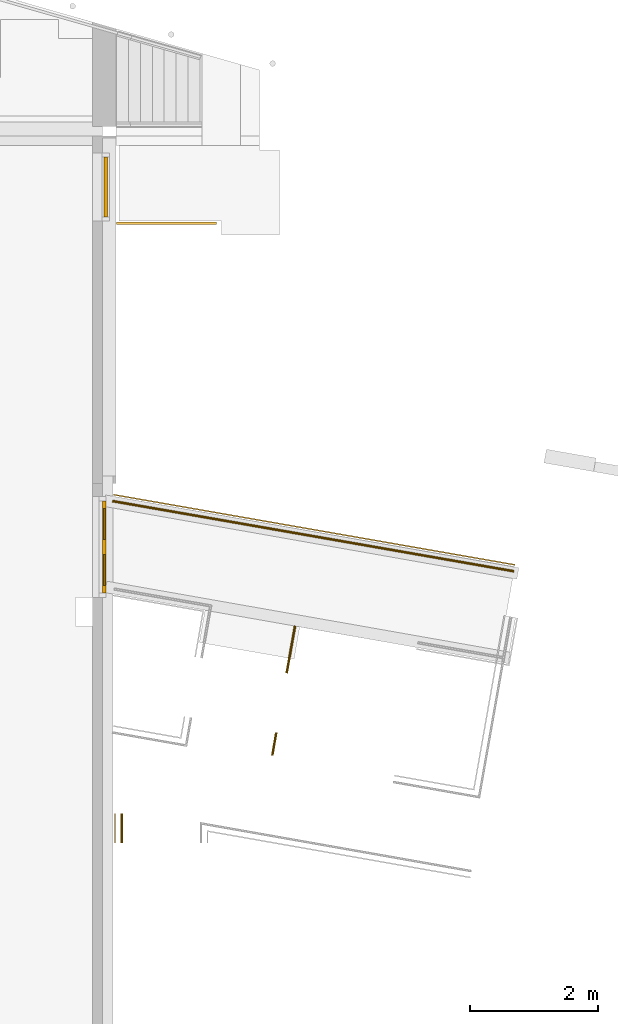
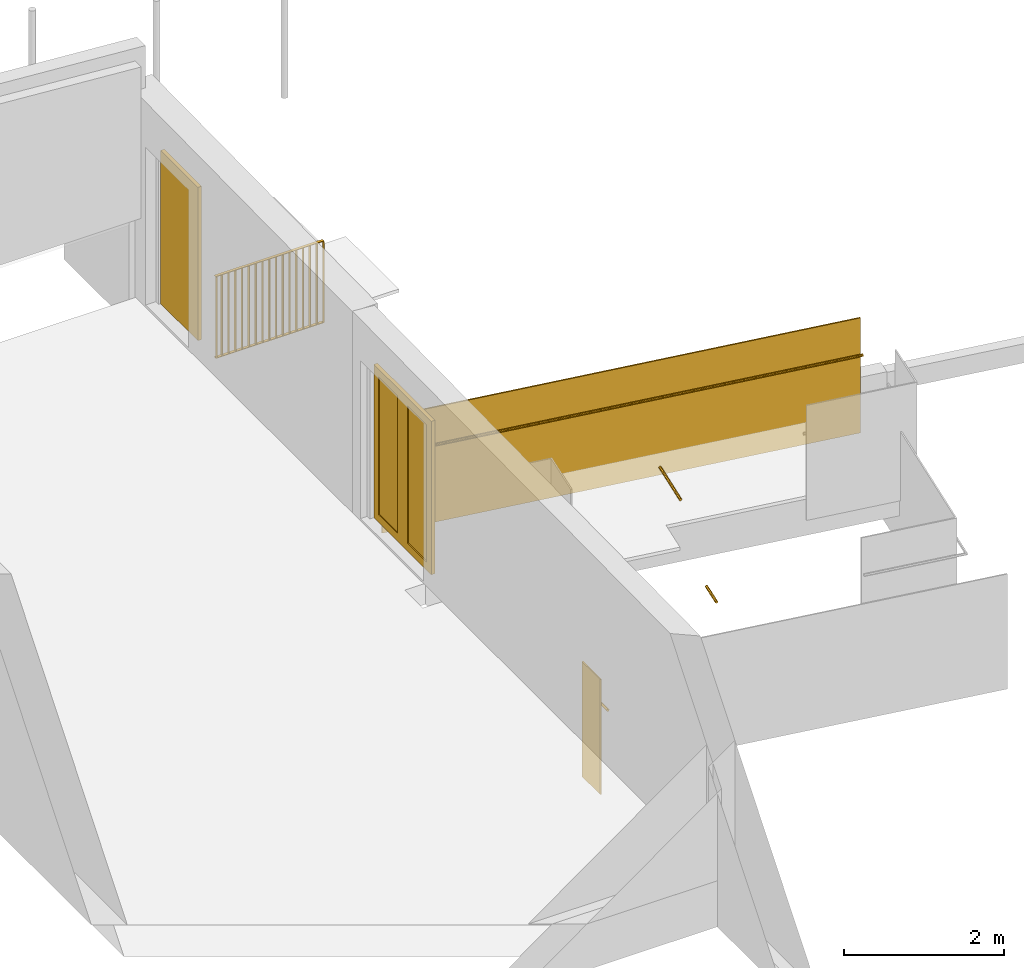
# One storey, part 6 of 10: 5 railings, 2 doors, 2 windows, 2 elements without a shape of their own.
"""IFC2X3 building model written with IfcOpenShell, lengths in millimetres."""

from ifc_helpers import new_model, entity, si_unit, converted_unit, derived_unit, direction, frame, frame_2d, origin, origin_2d_with_axis, place, context, subcontext, project, spatial, polyline, rectangle, circle, outline, extrude, source, transform, mapped, material, material_list, type_object, type_shapes, element, aggregate, save


model = new_model("IFC2X3")

# Units and contexts
model_context = context("Model", 3, precision=0.01, world=origin(), true_north=direction((6.12303176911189e-17, 1.0)))
body_context = subcontext(model_context, "Body", "Model", "MODEL_VIEW")
ifc_project = project(units=[si_unit("LENGTHUNIT", "METRE", prefix="MILLI"), si_unit("AREAUNIT", "SQUARE_METRE"), si_unit("VOLUMEUNIT", "CUBIC_METRE"), converted_unit("PLANEANGLEUNIT", "DEGREE", entity("IfcRatioMeasure", 0.0174532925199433), si_unit("PLANEANGLEUNIT", "RADIAN"), dimensions=[0, 0, 0, 0, 0, 0, 0]), si_unit("MASSUNIT", "GRAM", prefix="KILO"), derived_unit("MASSDENSITYUNIT", [(si_unit("MASSUNIT", "GRAM", prefix="KILO"), 1), (si_unit("LENGTHUNIT", "METRE"), -3)]), derived_unit("MOMENTOFINERTIAUNIT", [(si_unit("LENGTHUNIT", "METRE"), 4)]), si_unit("TIMEUNIT", "SECOND"), si_unit("FREQUENCYUNIT", "HERTZ"), si_unit("THERMODYNAMICTEMPERATUREUNIT", "DEGREE_CELSIUS"), derived_unit("THERMALTRANSMITTANCEUNIT", [(si_unit("MASSUNIT", "GRAM", prefix="KILO"), 1), (si_unit("THERMODYNAMICTEMPERATUREUNIT", "KELVIN"), -1), (si_unit("TIMEUNIT", "SECOND"), -3)]), derived_unit("VOLUMETRICFLOWRATEUNIT", [(si_unit("LENGTHUNIT", "METRE"), 3), (si_unit("TIMEUNIT", "SECOND"), -1)]), si_unit("ELECTRICCURRENTUNIT", "AMPERE"), si_unit("ELECTRICVOLTAGEUNIT", "VOLT"), si_unit("POWERUNIT", "WATT"), si_unit("FORCEUNIT", "NEWTON", prefix="KILO"), si_unit("ILLUMINANCEUNIT", "LUX"), si_unit("LUMINOUSFLUXUNIT", "LUMEN"), si_unit("LUMINOUSINTENSITYUNIT", "CANDELA"), derived_unit("USERDEFINED", [(si_unit("MASSUNIT", "GRAM", prefix="KILO"), -1), (si_unit("LENGTHUNIT", "METRE"), -2), (si_unit("TIMEUNIT", "SECOND"), 3), (si_unit("LUMINOUSFLUXUNIT", "LUMEN"), 1)]), derived_unit("LINEARVELOCITYUNIT", [(si_unit("LENGTHUNIT", "METRE"), 1), (si_unit("TIMEUNIT", "SECOND"), -1)]), si_unit("PRESSUREUNIT", "PASCAL"), derived_unit("USERDEFINED", [(si_unit("LENGTHUNIT", "METRE"), -2), (si_unit("MASSUNIT", "GRAM", prefix="KILO"), 1), (si_unit("TIMEUNIT", "SECOND"), -2)]), derived_unit("LINEARFORCEUNIT", [(si_unit("MASSUNIT", "GRAM", prefix="KILO"), 1), (si_unit("LENGTHUNIT", "METRE"), 1), (si_unit("TIMEUNIT", "SECOND"), -2), (si_unit("LENGTHUNIT", "METRE"), -1)]), derived_unit("PLANARFORCEUNIT", [(si_unit("MASSUNIT", "GRAM", prefix="KILO"), 1), (si_unit("LENGTHUNIT", "METRE"), 1), (si_unit("TIMEUNIT", "SECOND"), -2), (si_unit("LENGTHUNIT", "METRE"), -2)])], contexts=[model_context])

# Site, building, storey
site_placement = place(None, origin())
site = spatial("IfcSite", under=ifc_project, at=site_placement, Name="<Kadaster Gemeente>;<Kadaster nummer>;<Kadaster sectie>", CompositionType="ELEMENT")
building_placement = place(site_placement, origin())
building = spatial("IfcBuilding", under=site, at=building_placement, Name="JRCZ Middelburg", CompositionType="ELEMENT")
storey_placement = place(building_placement, frame((0.0, 0.0, 3700.0)))
storey = spatial("IfcBuildingStorey", under=building, at=storey_placement, Name="02 tweede verdieping", CompositionType="ELEMENT", Elevation=3700.0)

# Curtain wall, door
curtain_wall_type_1 = type_object("IfcCurtainWallType", Name="Curtain Wall:NLRS_32_CW_Ontwerpkozijn 067x114 binnen", PredefinedType="NOTDEFINED")
curtain_wall_1_placement = place(storey_placement, frame((0.0, 0.0, -3700.0)))
curtain_wall_1 = element("IfcCurtainWall", 1, at=curtain_wall_1_placement, inside=storey, type_object=curtain_wall_type_1, Name="Curtain Wall:NLRS_32_CW_Ontwerpkozijn 067x114 binnen", ObjectType="Curtain Wall:NLRS_32_CW_Ontwerpkozijn 067x114 binnen")
ifc_material_1 = material(Name="<Unnamed>")
ifc_material_list_1 = material_list([ifc_material_1, ifc_material_1, ifc_material_1, ifc_material_1])
ifc_material_list_2 = material_list([ifc_material_1, ifc_material_1])
door_style_1 = type_object("IfcDoorStyle", Name="31_DO_stolpdeur_1:0std binnendeur", ConstructionType="NOTDEFINED", OperationType="NOTDEFINED", ParameterTakesPrecedence=False, Sizeable=False, material=ifc_material_list_2)
shared_shape_1 = source(origin(), body_context, "Body", "SweptSolid", [
    extrude(outline(polyline([(-358.249999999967, -1166.5), (358.249999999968, -1166.5), (358.249999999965, 1166.5), (-358.249999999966, 1166.5), (-358.249999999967, -1166.5)]), holes=[polyline([(-238.249999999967, -1046.49999999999), (-238.249999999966, 1046.49999999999), (238.250000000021, 1046.49999999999), (238.250000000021, -1046.49999999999), (-238.249999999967, -1046.49999999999)])]), frame((358.249999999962, 27.0, 1166.5), z_axis=(0.0, 1.0, 0.0), x_axis=(1.0, 0.0, 0.0)), (0.0, 0.0, 1.0), 27.0),
    extrude(outline(polyline([(-358.25, -1166.5), (358.249999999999, -1166.5), (358.25, 1166.5), (-358.249999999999, 1166.5), (-358.25, -1166.5)]), holes=[polyline([(-238.25, -1046.49999999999), (-238.249999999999, 1046.5), (238.25, 1046.5), (238.25, -1046.49999999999), (-238.25, -1046.49999999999)])]), frame((-358.25, 27.0, 1166.5), z_axis=(0.0, 1.0, 0.0), x_axis=(1.0, 0.0, 0.0)), (0.0, 0.0, 1.0), 27.0),
    extrude(outline(polyline([(-358.25, -1166.5), (358.249999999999, -1166.5), (358.25, 1166.5), (-358.249999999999, 1166.5), (-358.25, -1166.5)]), holes=[polyline([(-238.25, -1046.49999999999), (-238.249999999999, 1046.49999999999), (238.25, 1046.49999999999), (238.25, -1046.49999999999), (-238.25, -1046.49999999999)])]), frame((-358.25, 0.0, 1166.5), z_axis=(0.0, 1.0, 0.0), x_axis=(1.0, 0.0, 0.0)), (0.0, 0.0, 1.0), 27.0000000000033),
    extrude(outline(polyline([(-358.25, -1166.5), (358.249999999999, -1166.5), (358.25, 1166.5), (-358.249999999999, 1166.5), (-358.25, -1166.5)]), holes=[polyline([(-238.25, -1046.49999999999), (-238.249999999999, 1046.49999999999), (238.25, 1046.49999999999), (238.25, -1046.49999999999), (-238.25, -1046.49999999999)])]), frame((358.249999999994, 0.0, 1166.5), z_axis=(0.0, 1.0, 0.0), x_axis=(1.0, 0.0, 0.0)), (0.0, 0.0, 1.0), 26.9999999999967),
])
type_shapes(door_style_1, [shared_shape_1])
door_1_placement = place(curtain_wall_1_placement, frame((17203.0, 17998.5893841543, 3700.0), z_axis=(0.0, 0.0, 1.0), x_axis=(0.0, -1.0, 0.0)))
door_1 = element("IfcDoor", 2, at=door_1_placement, type_object=door_style_1, material=ifc_material_list_1, Name="31_DO_stolpdeur_1:0std binnendeur", ObjectType="31_DO_stolpdeur_1:0std binnendeur", OverallHeight=2333.00000000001, OverallWidth=1433.00000000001, context=body_context, shape_type="MappedRepresentation", body=[
    mapped(shared_shape_1, transform((0.0, 0.0, 0.0), scale=1.0)),
])
aggregate(curtain_wall_1, [door_1])

# Windows
ifc_material_2 = material(Name="o1_glas")
window_style = type_object("IfcWindowStyle", Name="WI_subvak:glas 2", ConstructionType="NOTDEFINED", OperationType="NOTDEFINED", ParameterTakesPrecedence=False, Sizeable=False, material=ifc_material_2)
shared_shape_2 = source(origin(), body_context, "Body", "SweptSolid", [
    extrude(rectangle(XDim=24.0000000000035, YDim=476.500000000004, at=origin_2d_with_axis()), frame((0.0, 0.0, 0.0), z_axis=(0.0, 0.0, 1.0), x_axis=(0.0, -1.0, 0.0)), (0.0, 0.0, 1.0), 2092.99999999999),
])
type_shapes(window_style, [shared_shape_2])
for number, where, z_axis, x_axis, name in (
    (3, (17230.0, 17640.3393841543, 120.0), (0.0, 0.0, 1.0), (0.0, -1.0, 0.0), "WI_subvak:glas 2"),
    (4, (17230.0, 18356.8393841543, 120.0), (0.0, 0.0, 1.0), (0.0, -1.0, 0.0), "WI_subvak:glas 2"),
):
    element("IfcWindow", number, at=place(storey_placement, frame(where, z_axis=z_axis, x_axis=x_axis)), inside=storey, type_object=window_style, material=ifc_material_2, Name=name, ObjectType="WI_subvak:glas 2", OverallHeight=2172.99999999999, OverallWidth=476.500000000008, context=body_context, shape_type="MappedRepresentation", body=[
        mapped(shared_shape_2, transform((0.0, 0.0, 0.0), scale=1.0)),
    ])

# Curtain wall, door
curtain_wall_type_2 = type_object("IfcCurtainWallType", Name="Curtain Wall:NLRS_31_CW_Ontwerpkozijn 067x114", PredefinedType="NOTDEFINED")
curtain_wall_2_placement = place(storey_placement, frame((0.0, 0.0, -3700.0)))
curtain_wall_2 = element("IfcCurtainWall", 5, at=curtain_wall_2_placement, inside=storey, type_object=curtain_wall_type_2, Name="Curtain Wall:NLRS_31_CW_Ontwerpkozijn 067x114", ObjectType="Curtain Wall:NLRS_31_CW_Ontwerpkozijn 067x114")
ifc_material_3 = material(Name="RBM_a_deur_paneel")
ifc_material_list_3 = material_list([ifc_material_3, ifc_material_3])
ifc_material_list_4 = material_list([ifc_material_3, ifc_material_3])
door_style_2 = type_object("IfcDoorStyle", Name="31_DO_deur_0:deur", ConstructionType="NOTDEFINED", OperationType="NOTDEFINED", ParameterTakesPrecedence=False, Sizeable=False, material=ifc_material_list_4)
shared_shape_3 = source(origin(), body_context, "Body", "SweptSolid", [
    extrude(rectangle(XDim=27.0, YDim=930.000000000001, at=frame_2d((8.88178419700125e-15, 0.0), x_axis=(1.0, 0.0))), frame((0.0, 70.4999999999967, 0.0), z_axis=(0.0, 0.0, 1.0), x_axis=(0.0, 1.0, 0.0)), (0.0, 0.0, 1.0), 2333.00000000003),
    extrude(rectangle(XDim=26.9999999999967, YDim=930.000000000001, at=origin_2d_with_axis()), frame((0.0, 43.4999999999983, 0.0), z_axis=(0.0, 0.0, 1.0), x_axis=(0.0, 1.0, 0.0)), (0.0, 0.0, 1.0), 2333.00000000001),
])
type_shapes(door_style_2, [shared_shape_3])
door_2_placement = place(curtain_wall_2_placement, frame((17197.0, 23606.0, 3700.0), z_axis=(0.0, 0.0, 1.0), x_axis=(0.0, -1.0, 0.0)))
door_2 = element("IfcDoor", 6, at=door_2_placement, type_object=door_style_2, material=ifc_material_list_3, Name="31_DO_deur_0:deur", ObjectType="31_DO_deur_0:deur", OverallHeight=2333.00000000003, OverallWidth=930.000000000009, context=body_context, shape_type="MappedRepresentation", body=[
    mapped(shared_shape_3, transform((0.0, 0.0, 0.0), scale=1.0)),
])
aggregate(curtain_wall_2, [door_2])

# Railings
ifc_material_4 = material(Name="h2_staal_gen")
ifc_material_list_5 = material_list([ifc_material_1, ifc_material_1, ifc_material_1, ifc_material_1, ifc_material_1, ifc_material_1, ifc_material_1, ifc_material_1, ifc_material_1, ifc_material_1, ifc_material_1, ifc_material_1, ifc_material_1, ifc_material_1, ifc_material_1, ifc_material_1, ifc_material_1, ifc_material_4, ifc_material_4])
railing_1_placement = place(storey_placement, origin())
element("IfcRailing", 7, at=railing_1_placement, inside=storey, material=ifc_material_list_5, Name="Railing:NLRS_90_RA_LB_hekwerk panelen_gen", ObjectType="Railing:NLRS_90_RA_LB_hekwerk panelen_gen", PredefinedType="NOTDEFINED", context=body_context, shape_type="SweptSolid", body=[
    extrude(rectangle(XDim=9.99999999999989, YDim=39.9999999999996, at=origin_2d_with_axis()), frame((17514.7696384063, 23043.8488865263, -270.0), z_axis=(0.0, 0.0, 1.0), x_axis=(-1.0, 0.0, 0.0)), (0.0, 0.0, 1.0), 1240.0),
    extrude(rectangle(XDim=9.99999999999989, YDim=39.9999999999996, at=origin_2d_with_axis()), frame((17612.2696384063, 23043.8488865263, -270.0), z_axis=(0.0, 0.0, 1.0), x_axis=(-1.0, 0.0, 0.0)), (0.0, 0.0, 1.0), 1240.0),
    extrude(rectangle(XDim=9.99999999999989, YDim=39.9999999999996, at=frame_2d((-2.16582307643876e-12, 0.0), x_axis=(1.0, 0.0))), frame((17709.7696384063, 23043.8488865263, -270.0), z_axis=(0.0, 0.0, 1.0), x_axis=(-1.0, 0.0, 0.0)), (0.0, 0.0, 1.0), 1240.0),
    extrude(rectangle(XDim=9.99999999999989, YDim=39.9999999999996, at=origin_2d_with_axis()), frame((17807.2696384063, 23043.8488865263, -270.0), z_axis=(0.0, 0.0, 1.0), x_axis=(-1.0, 0.0, 0.0)), (0.0, 0.0, 1.0), 1240.0),
    extrude(rectangle(XDim=9.99999999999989, YDim=39.9999999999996, at=frame_2d((-2.16582307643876e-12, 0.0), x_axis=(1.0, 0.0))), frame((17904.7696384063, 23043.8488865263, -270.0), z_axis=(0.0, 0.0, 1.0), x_axis=(-1.0, 0.0, 0.0)), (0.0, 0.0, 1.0), 1240.0),
    extrude(rectangle(XDim=9.99999999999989, YDim=39.9999999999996, at=origin_2d_with_axis()), frame((18002.2696384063, 23043.8488865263, -270.0), z_axis=(0.0, 0.0, 1.0), x_axis=(-1.0, 0.0, 0.0)), (0.0, 0.0, 1.0), 1240.0),
    extrude(rectangle(XDim=9.99999999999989, YDim=39.9999999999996, at=origin_2d_with_axis()), frame((18099.7696384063, 23043.8488865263, -270.0), z_axis=(0.0, 0.0, 1.0), x_axis=(-1.0, 0.0, 0.0)), (0.0, 0.0, 1.0), 1240.0),
    extrude(rectangle(XDim=9.99999999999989, YDim=39.9999999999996, at=origin_2d_with_axis()), frame((18197.2696384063, 23043.8488865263, -270.0), z_axis=(0.0, 0.0, 1.0), x_axis=(-1.0, 0.0, 0.0)), (0.0, 0.0, 1.0), 1240.0),
    extrude(rectangle(XDim=9.99999999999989, YDim=39.9999999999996, at=frame_2d((2.16582307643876e-12, 0.0), x_axis=(1.0, 0.0))), frame((18294.7696384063, 23043.8488865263, -270.0), z_axis=(0.0, 0.0, 1.0), x_axis=(-1.0, 0.0, 0.0)), (0.0, 0.0, 1.0), 1240.0),
    extrude(rectangle(XDim=9.99999999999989, YDim=39.9999999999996, at=frame_2d((-2.16582307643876e-12, 0.0), x_axis=(1.0, 0.0))), frame((18392.2696384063, 23043.8488865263, -270.0), z_axis=(0.0, 0.0, 1.0), x_axis=(-1.0, 0.0, 0.0)), (0.0, 0.0, 1.0), 1240.0),
    extrude(rectangle(XDim=9.99999999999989, YDim=39.9999999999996, at=origin_2d_with_axis()), frame((18489.7696384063, 23043.8488865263, -270.0), z_axis=(0.0, 0.0, 1.0), x_axis=(-1.0, 0.0, 0.0)), (0.0, 0.0, 1.0), 1240.0),
    extrude(rectangle(XDim=9.99999999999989, YDim=39.9999999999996, at=frame_2d((-2.16582307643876e-12, 0.0), x_axis=(1.0, 0.0))), frame((18587.2696384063, 23043.8488865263, -270.0), z_axis=(0.0, 0.0, 1.0), x_axis=(-1.0, 0.0, 0.0)), (0.0, 0.0, 1.0), 1240.0),
    extrude(rectangle(XDim=9.99999999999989, YDim=39.9999999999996, at=origin_2d_with_axis()), frame((18684.7696384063, 23043.8488865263, -270.0), z_axis=(0.0, 0.0, 1.0), x_axis=(-1.0, 0.0, 0.0)), (0.0, 0.0, 1.0), 1240.0),
    extrude(rectangle(XDim=9.99999999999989, YDim=39.9999999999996, at=frame_2d((-2.16582307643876e-12, 0.0), x_axis=(1.0, 0.0))), frame((18782.2696384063, 23043.8488865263, -270.0), z_axis=(0.0, 0.0, 1.0), x_axis=(-1.0, 0.0, 0.0)), (0.0, 0.0, 1.0), 1240.0),
    extrude(rectangle(XDim=9.99999999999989, YDim=39.9999999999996, at=origin_2d_with_axis()), frame((18879.7696384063, 23043.8488865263, -270.0), z_axis=(0.0, 0.0, 1.0), x_axis=(-1.0, 0.0, 0.0)), (0.0, 0.0, 1.0), 1240.0),
    extrude(rectangle(XDim=10.0000000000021, YDim=19.9999999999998, at=frame_2d((-2.16582307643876e-12, -2.16626716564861e-12), x_axis=(1.0, 0.0))), frame((17428.3328608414, 23023.4121744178, -260.0), z_axis=(0.0, 0.0, 1.0), x_axis=(0.0, -1.0, 0.0)), (0.0, 0.0, 1.0), 1230.0),
    extrude(rectangle(XDim=10.0000000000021, YDim=19.9999999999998, at=frame_2d((2.16582307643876e-12, 0.0), x_axis=(1.0, 0.0))), frame((18968.3328608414, 23023.4121744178, -260.0), z_axis=(0.0, 0.0, 1.0), x_axis=(0.0, -1.0, 0.0)), (0.0, 0.0, 1.0), 1230.0),
    extrude(rectangle(XDim=1560.0, YDim=39.9999999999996, at=frame_2d((0.0, 2.16537898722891e-12), x_axis=(1.0, 0.0))), frame((18197.6696056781, 23043.8121416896, 970.0), z_axis=(0.0, 0.0, 1.0), x_axis=(-1.0, 0.0, 0.0)), (0.0, 0.0, 1.0), 9.99999999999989),
    extrude(rectangle(XDim=1560.0, YDim=39.9999999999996, at=frame_2d((0.0, 2.16537898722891e-12), x_axis=(1.0, 0.0))), frame((18197.6696056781, 23043.8121416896, -270.0), z_axis=(0.0, 0.0, 1.0), x_axis=(-1.0, 0.0, 0.0)), (0.0, 0.0, 1.0), 9.99999999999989),
])
railing_2_placement = place(storey_placement, origin())
element("IfcRailing", 8, at=railing_2_placement, inside=storey, material=ifc_material_1, Name="Railing:RBM_RA_handleuning", ObjectType="Railing:RBM_RA_handleuning", PredefinedType="NOTDEFINED", context=body_context, shape_type="SweptSolid", body=[
    extrude(circle(Radius=19.05, at=origin_2d_with_axis()), frame((20070.8292578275, 16033.8693315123, 895.35), z_axis=(0.175101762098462, 0.984550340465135, 0.0), x_axis=(0.984550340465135, -0.175101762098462, 0.0)), (0.0, 0.0, 1.0), 750.000000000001),
])
railing_3_placement = place(storey_placement, origin())
element("IfcRailing", 9, at=railing_3_placement, inside=storey, material=ifc_material_1, Name="Railing:RBM_RA_handleuning", ObjectType="Railing:RBM_RA_handleuning", PredefinedType="NOTDEFINED", context=body_context, shape_type="SweptSolid", body=[
    extrude(circle(Radius=19.05, at=origin_2d_with_axis()), frame((19846.9414446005, 14750.3117022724, 195.35), z_axis=(0.170907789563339, 0.985287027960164, 0.0), x_axis=(0.985287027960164, -0.170907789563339, 0.0)), (0.0, 0.0, 1.0), 364.351689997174),
])
ifc_material_5 = material(Name="Glass_RIPO")
ifc_material_list_6 = material_list([ifc_material_5, ifc_material_1])
railing_4_placement = place(storey_placement, origin())
element("IfcRailing", 10, at=railing_4_placement, inside=storey, material=ifc_material_list_6, Name="Railing:RBM_RA_glasbalustrade", ObjectType="Railing:RBM_RA_glasbalustrade", PredefinedType="NOTDEFINED", context=body_context, shape_type="SweptSolid", body=[
    extrude(rectangle(XDim=6350.26027417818, YDim=19.9999999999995, at=origin_2d_with_axis()), frame((20500.5081355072, 18267.3328318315, -350.0), z_axis=(0.0, 0.0, 1.0), x_axis=(-0.985063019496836, 0.172194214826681, 0.0)), (0.0, 0.0, 1.0), 1750.0),
    extrude(circle(Radius=19.05, at=frame_2d((-3.72926910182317e-13, 0.0), x_axis=(1.0, 0.0))), frame((17355.3788008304, 18714.383495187, 895.35), z_axis=(0.985063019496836, -0.172194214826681, 0.0), x_axis=(-0.172194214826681, -0.985063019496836, 0.0)), (0.0, 0.0, 1.0), 6350.26027417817),
])
ifc_material_list_7 = material_list([ifc_material_5, ifc_material_1])
railing_5_placement = place(storey_placement, origin())
element("IfcRailing", 11, at=railing_5_placement, inside=storey, material=ifc_material_list_7, Name="Railing:RBM_RA_glasbalustrade", ObjectType="Railing:RBM_RA_glasbalustrade", PredefinedType="NOTDEFINED", context=body_context, shape_type="SweptSolid", body=[
    extrude(rectangle(XDim=457.160556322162, YDim=19.9999999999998, at=frame_2d((0.0, 2.16626716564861e-12), x_axis=(1.0, 0.0))), frame((17398.0, 13619.1872300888, -1050.0), z_axis=(0.0, 0.0, 1.0), x_axis=(0.0, 1.0, 0.0)), (0.0, 0.0, 1.0), 1750.0),
    extrude(circle(Radius=19.05, at=origin_2d_with_axis()), frame((17499.2000000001, 13390.6069519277, 195.35), z_axis=(0.0, 1.0, 0.0), x_axis=(-1.0, 0.0, 0.0)), (0.0, 0.0, 1.0), 457.160556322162),
])

save(model, "model.ifc")
